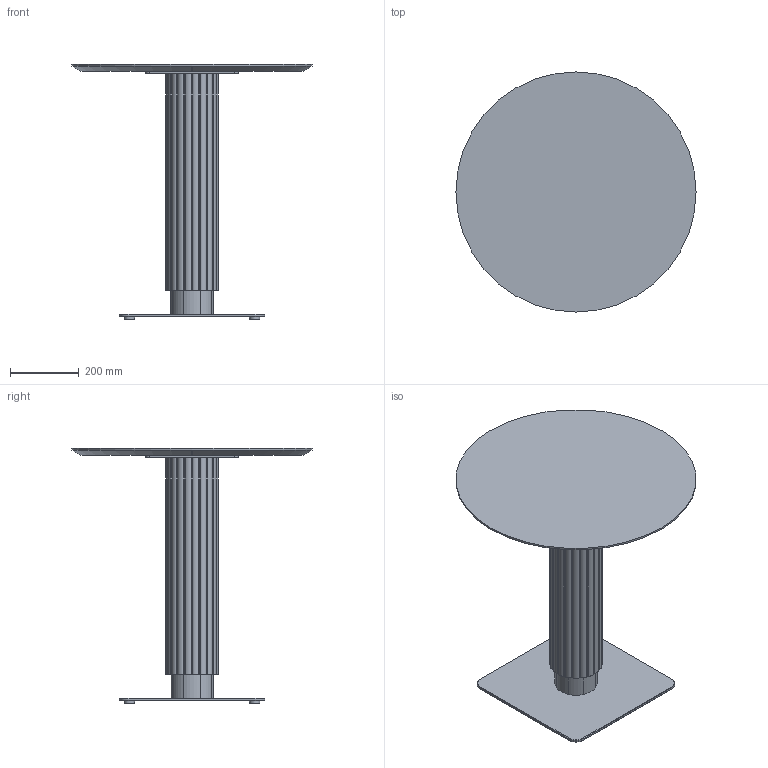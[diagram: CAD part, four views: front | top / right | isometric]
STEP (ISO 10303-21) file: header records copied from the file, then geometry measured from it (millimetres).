
FILE_DESCRIPTION( ('This file contains a STEP AP42 implementation' ,'as created by ZW3D STEP Interface translator.') ,'2;1' );
FILE_NAME( 'Godron - B_Carré - F1 - M5 - 700 x 700 x 750.stp' ,'24 912. 94932', (''), ('ZWCAD Software Co.'), 'Version 1.0', 'ZW3D to STEP translator', '' );
FILE_SCHEMA(('AUTOMOTIVE_DESIGN { 1 0 10303 214 1 1 1 1 }'));
Length unit declared in the file: millimetre
Products named in the file (15): 0; PIED BISTROT PARAMETRIQUE_; CROIX ACIER 370 V.02_; CRX-X370-02_; SOCLE ACIER L 425x425 V.02_; SCL-R425-02_; PLA-R30A-01_; PLA-R30A-01; COLONNE ACIER Ø48.5 V.02_; TUB-D048-02_; PLA-R48A-01_; Colonne GODRON H700_; WUERTH 0276063020 Euro-screw 6.3x2 Verzinkt_; PLATEAU BISTROT PARAMETRIQUE_; insert_m6_13_
Assembly tree (23 placements, depth 3):
  0
  PIED BISTROT PARAMETRIQUE_
    CROIX ACIER 370 V.02_
      CRX-X370-02_
    SOCLE ACIER L 425x425 V.02_
      SCL-R425-02_
      PLA-R30A-01_
      PLA-R30A-01  x3
    COLONNE ACIER Ø48.5 V.02_
      TUB-D048-02_
      PLA-R48A-01_  x2
    Colonne GODRON H700_
    WUERTH 0276063020 Euro-screw 6.3x2 Verzinkt_
    PLATEAU BISTROT PARAMETRIQUE_
      insert_m6_13_  x8
Bounding box: 700 x 700 x 744 mm (x, y, z)
Volume: 19780599.2 mm3; surface area: 2577945.6 mm2
Topology: 27 solids, 27 shells, 661 faces, 1646 edges, 1054 vertices
Faces by surface type: plane 298, cylinder 192, bspline 121, cone 49, torus 1
Full cylindrical faces by diameter (mm): 4.88 x1, 6 x8, 6.3 x1, 8 x45, 12 x2, 14 x2, 30 x4, 44.5 x3, 48.5 x1
Entity records: 16606 total; most frequent: CARTESIAN_POINT 4101, DIRECTION 2308, ORIENTED_EDGE 2306, EDGE_CURVE 1153, AXIS2_PLACEMENT_3D 817, VERTEX_POINT 748, VECTOR 674, LINE 674
